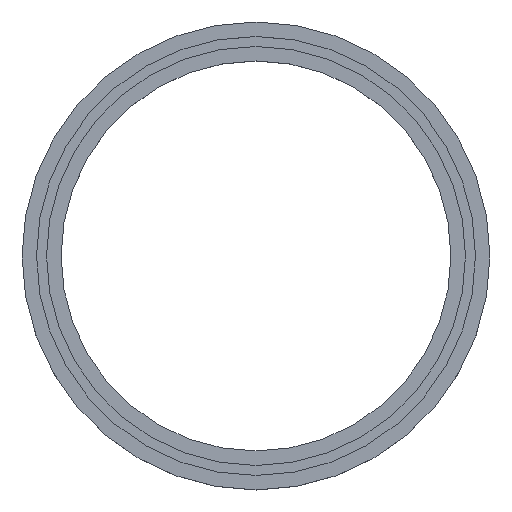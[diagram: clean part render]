
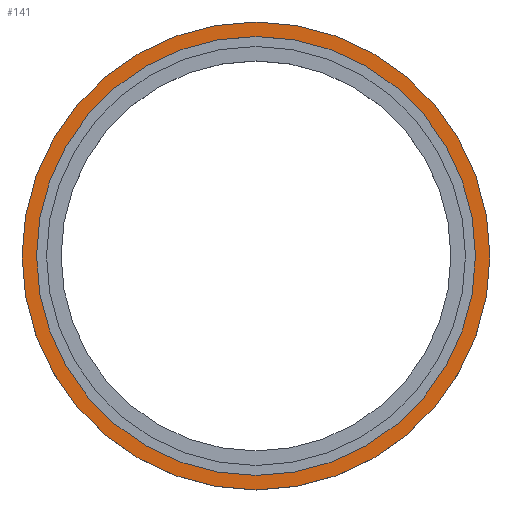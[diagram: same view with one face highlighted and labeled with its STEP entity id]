
A CAD part, top view. The second image highlights one B-rep face of the part: STEP entity #141.
In plain terms, the highlighted planar face has unit normal (0, 0, 1).
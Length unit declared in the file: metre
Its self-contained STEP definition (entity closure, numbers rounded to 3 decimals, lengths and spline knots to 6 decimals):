
#17=PLANE('',#187);
#34=ORIENTED_EDGE('',*,*,#51,.F.);
#35=ORIENTED_EDGE('',*,*,#52,.T.);
#51=EDGE_CURVE('',#63,#63,#75,.T.);
#52=EDGE_CURVE('',#64,#64,#76,.T.);
#63=VERTEX_POINT('',#269);
#64=VERTEX_POINT('',#272);
#75=CIRCLE('',#186,0.0381);
#76=CIRCLE('',#188,0.035738);
#94=EDGE_LOOP('',(#34));
#95=EDGE_LOOP('',(#35));
#118=FACE_BOUND('',#94,.T.);
#119=FACE_BOUND('',#95,.T.);
#141=ADVANCED_FACE('',(#118,#119),#17,.F.);
#186=AXIS2_PLACEMENT_3D('',#268,#226,#227);
#187=AXIS2_PLACEMENT_3D('',#270,#228,#229);
#188=AXIS2_PLACEMENT_3D('',#271,#230,#231);
#226=DIRECTION('',(0.,0.,-1.));
#227=DIRECTION('',(-1.,0.,0.));
#228=DIRECTION('',(0.,0.,-1.));
#229=DIRECTION('',(-1.,0.,0.));
#230=DIRECTION('',(0.,0.,-1.));
#231=DIRECTION('',(-1.,0.,0.));
#268=CARTESIAN_POINT('',(0.,0.,0.00635));
#269=CARTESIAN_POINT('',(-0.0381,0.,0.00635));
#270=CARTESIAN_POINT('',(0.036919,0.,0.00635));
#271=CARTESIAN_POINT('',(0.,0.,0.00635));
#272=CARTESIAN_POINT('',(-0.035738,0.,0.00635));
